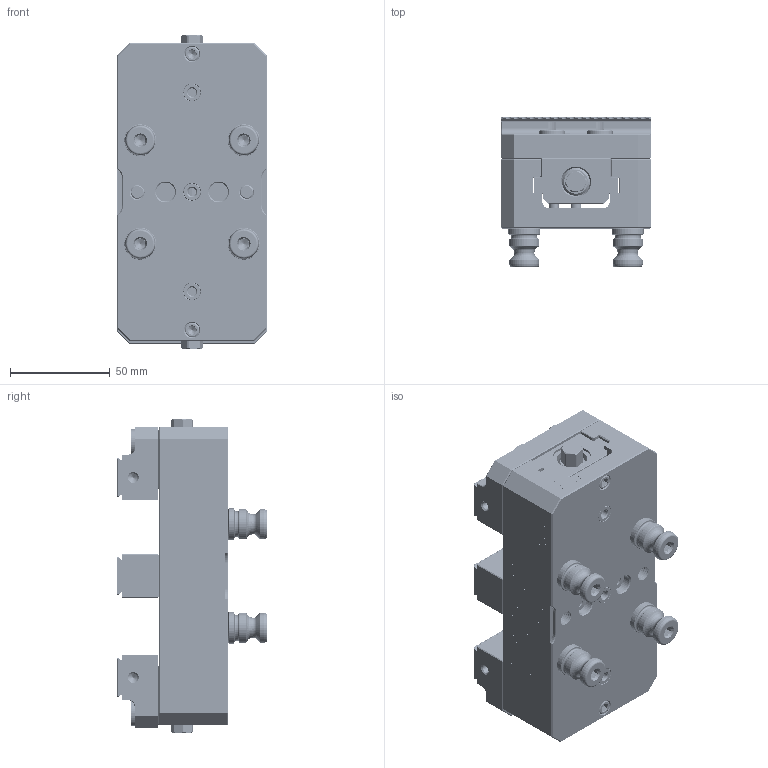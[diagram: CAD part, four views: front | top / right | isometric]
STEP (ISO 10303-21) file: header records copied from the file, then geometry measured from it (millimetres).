
FILE_DESCRIPTION (( 'STEP AP214' ), '1' );
FILE_NAME ('DV75150X-J1 + 4x PS16F.STEP', '2019-05-12T16:16:48', ( '' ), ( '' ), 'SwSTEP 2.0', 'SolidWorks 2018', '' );
FILE_SCHEMA (( 'AUTOMOTIVE_DESIGN' ));
Length unit declared in the file: millimetre
Products named in the file (19): PS16F; 01875.FP; V75100X-5_V75100X-5; V75150X-1_V75150X; M5x10.DP_HW.M5X10.DP; 0625X0625.DB_8491A358; V75100X-2L_V75100X-2L; 76252_91290A210; HW.39858.CPSS_M8X1.25X20MM; M8X12.EPSS_92905A312; PS16F-1_PS16F; V75100X-2R_V75100X-2R; V75100-5CDV_FINISHED PART; C06-024-016_9657K267; DV75150X-J1 + 4x PS16F; TIM-34_TIM-34; 76232_HK.76232; 450-8; V75150X-4
Assembly tree (36 placements, depth 3):
  DV75150X-J1 + 4x PS16F
    V75150X-1_V75150X
    01875.FP
    V75100X-2L_V75100X-2L
    V75100X-2R_V75100X-2R
    V75150X-4
    0625X0625.DB_8491A358  x2
    M8X12.EPSS_92905A312  x2
    TIM-34_TIM-34  x3
    M5x10.DP_HW.M5X10.DP  x2
    C06-024-016_9657K267
    V75100-5CDV_FINISHED PART
    V75100X-5_V75100X-5  x2
    76252_91290A210  x2
    450-8  x2
    76232_HK.76232  x8
    PS16F  x4
      PS16F-1_PS16F
      HW.39858.CPSS_M8X1.25X20MM
Bounding box: 75 x 75.69 x 158 mm (x, y, z)
Volume: 439533.5 mm3; surface area: 142999.8 mm2
Topology: 38 solids, 38 shells, 4687 faces, 12239 edges, 7813 vertices
Faces by surface type: plane 1885, cylinder 1399, bspline 717, cone 566, torus 112, sphere 8
Entity records: 137800 total; most frequent: CARTESIAN_POINT 65119, ORIENTED_EDGE 16528, DIRECTION 11956, EDGE_CURVE 8264, VERTEX_POINT 5356, LINE 5026, VECTOR 5026, AXIS2_PLACEMENT_3D 3465
